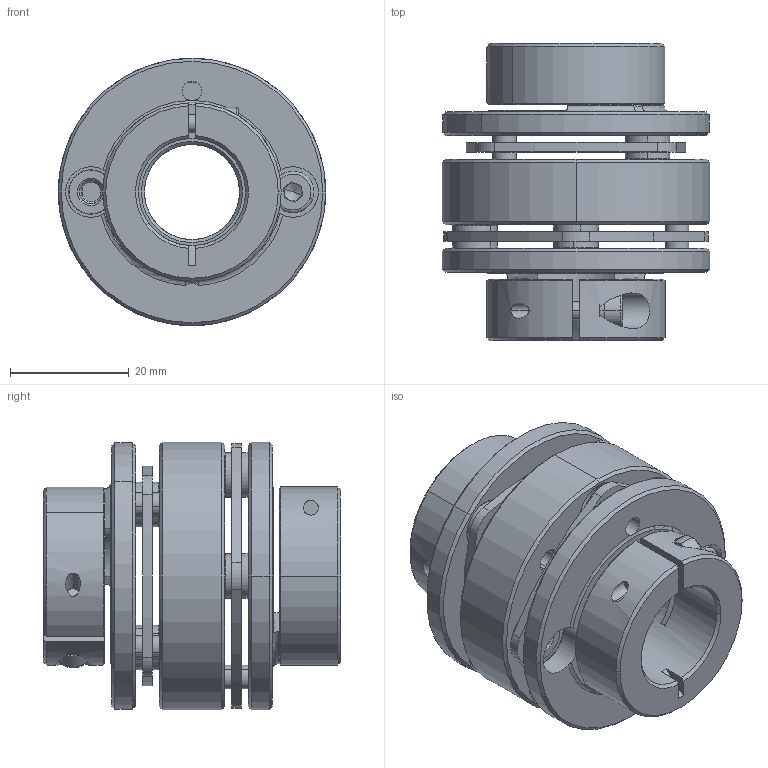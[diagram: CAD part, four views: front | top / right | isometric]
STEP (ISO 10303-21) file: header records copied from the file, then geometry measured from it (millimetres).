
FILE_DESCRIPTION (( 'STEP AP203' ), '1' );
FILE_NAME ('LE2-B-D45L50-16-18.STEP', '2021-11-01T06:52:02', ( '' ), ( '' ), 'SwSTEP 2.0', 'SolidWorks 2018', '' );
FILE_SCHEMA (( 'CONFIG_CONTROL_DESIGN' ));
Length unit declared in the file: millimetre
Products named in the file (1): LE2-B-D45L50-16-18
Bounding box: 45 x 50 x 45 mm (x, y, z)
Volume: 33473.8 mm3; surface area: 22968.4 mm2
Topology: 1 solids, 5 shells, 498 faces, 1200 edges, 736 vertices
Faces by surface type: cylinder 182, cone 154, plane 142, torus 18, bspline 2
Entity records: 15025 total; most frequent: CARTESIAN_POINT 2871, DIRECTION 2770, ORIENTED_EDGE 2376, EDGE_CURVE 1188, AXIS2_PLACEMENT_3D 1133, VERTEX_POINT 736, CIRCLE 636, EDGE_LOOP 592
